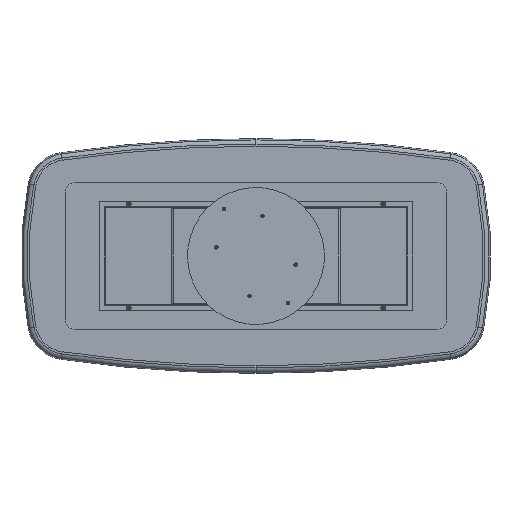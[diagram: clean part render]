
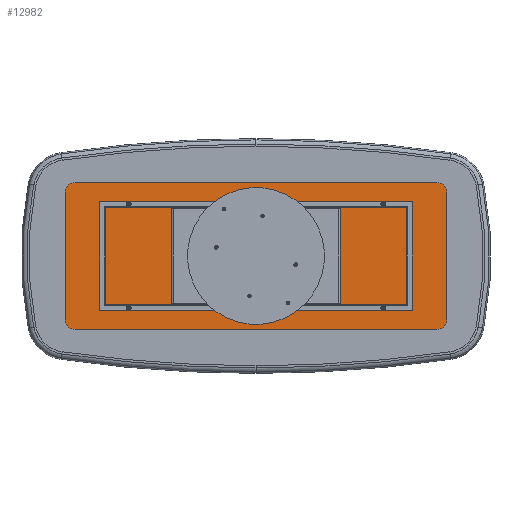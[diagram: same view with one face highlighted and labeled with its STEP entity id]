
A CAD part, front view. The second image highlights one B-rep face of the part: STEP entity #12982.
In plain terms, the highlighted planar face has unit normal (0, -1, 0).
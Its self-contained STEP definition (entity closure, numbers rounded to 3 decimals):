
#515 = CARTESIAN_POINT ( 'NONE',  ( -650., -35.5, -265. ) ) ;
#525 = CIRCLE ( 'NONE', #6205, 5. ) ;
#538 = DIRECTION ( 'NONE',  ( 0., -1., 0. ) ) ;
#576 = CIRCLE ( 'NONE', #4147, 5. ) ;
#1072 = CARTESIAN_POINT ( 'NONE',  ( 650., -35.5, 265. ) ) ;
#1090 = VERTEX_POINT ( 'NONE', #16221 ) ;
#1226 = CARTESIAN_POINT ( 'NONE',  ( 650., -35.5, -265. ) ) ;
#1245 = ORIENTED_EDGE ( 'NONE', *, *, #16371, .T. ) ;
#1343 = CARTESIAN_POINT ( 'NONE',  ( 650., -35.5, 265. ) ) ;
#1424 = EDGE_LOOP ( 'NONE', ( #13467, #12611 ) ) ;
#1569 = CIRCLE ( 'NONE', #1944, 5. ) ;
#1615 = CARTESIAN_POINT ( 'NONE',  ( 925., -35.5, 325. ) ) ;
#1630 = ORIENTED_EDGE ( 'NONE', *, *, #6626, .F. ) ;
#1672 = DIRECTION ( 'NONE',  ( 0., -1., 0. ) ) ;
#1944 = AXIS2_PLACEMENT_3D ( 'NONE', #7737, #9410, #14486 ) ;
#2183 = DIRECTION ( 'NONE',  ( 0., 0., -1. ) ) ;
#2377 = AXIS2_PLACEMENT_3D ( 'NONE', #5764, #8985, #9512 ) ;
#2416 = FACE_BOUND ( 'NONE', #15329, .T. ) ;
#2524 = CARTESIAN_POINT ( 'NONE',  ( 650., -35.5, -270. ) ) ;
#2574 = EDGE_LOOP ( 'NONE', ( #11296, #1630 ) ) ;
#2970 = EDGE_CURVE ( 'NONE', #12170, #8495, #7530, .T. ) ;
#2974 = CARTESIAN_POINT ( 'NONE',  ( 650., -35.5, -260. ) ) ;
#2987 = CIRCLE ( 'NONE', #11161, 5. ) ;
#3018 = CARTESIAN_POINT ( 'NONE',  ( 975., -35.5, 325. ) ) ;
#3100 = VECTOR ( 'NONE', #14246, 1000. ) ;
#3230 = DIRECTION ( 'NONE',  ( 0., 0., -1. ) ) ;
#3416 = AXIS2_PLACEMENT_3D ( 'NONE', #1343, #1672, #14877 ) ;
#3719 = EDGE_CURVE ( 'NONE', #10122, #1090, #16134, .T. ) ;
#4147 = AXIS2_PLACEMENT_3D ( 'NONE', #1226, #18464, #3230 ) ;
#4170 = CARTESIAN_POINT ( 'NONE',  ( 925., -35.5, -375. ) ) ;
#4236 = CARTESIAN_POINT ( 'NONE',  ( -650., -35.5, -270. ) ) ;
#4375 = EDGE_CURVE ( 'NONE', #17899, #9718, #525, .T. ) ;
#4557 = EDGE_LOOP ( 'NONE', ( #10538, #1245, #19976, #6231, #12730, #13941, #20369, #6158 ) ) ;
#4604 = DIRECTION ( 'NONE',  ( 0., -1., 0. ) ) ;
#4774 = VERTEX_POINT ( 'NONE', #10382 ) ;
#4923 = DIRECTION ( 'NONE',  ( 0., 0., -1. ) ) ;
#4953 = DIRECTION ( 'NONE',  ( 0., 0., -1. ) ) ;
#5025 = CARTESIAN_POINT ( 'NONE',  ( -925., -35.5, -375. ) ) ;
#5095 = EDGE_CURVE ( 'NONE', #16751, #9366, #12953, .T. ) ;
#5166 = DIRECTION ( 'NONE',  ( 0., -1., 0. ) ) ;
#5254 = CARTESIAN_POINT ( 'NONE',  ( 925., -35.5, 375. ) ) ;
#5463 = CARTESIAN_POINT ( 'NONE',  ( 925., -35.5, -375. ) ) ;
#5620 = EDGE_CURVE ( 'NONE', #9130, #21403, #576, .T. ) ;
#5640 = EDGE_CURVE ( 'NONE', #9718, #17899, #10542, .T. ) ;
#5764 = CARTESIAN_POINT ( 'NONE',  ( -650., -35.5, 265. ) ) ;
#6052 = VERTEX_POINT ( 'NONE', #6755 ) ;
#6158 = ORIENTED_EDGE ( 'NONE', *, *, #10631, .T. ) ;
#6205 = AXIS2_PLACEMENT_3D ( 'NONE', #1072, #17969, #9649 ) ;
#6211 = EDGE_CURVE ( 'NONE', #6052, #4774, #8054, .T. ) ;
#6231 = ORIENTED_EDGE ( 'NONE', *, *, #9000, .T. ) ;
#6381 = EDGE_CURVE ( 'NONE', #8473, #10122, #18717, .T. ) ;
#6626 = EDGE_CURVE ( 'NONE', #21403, #9130, #14446, .T. ) ;
#6755 = CARTESIAN_POINT ( 'NONE',  ( -650., -35.5, 260. ) ) ;
#7530 = CIRCLE ( 'NONE', #16002, 5. ) ;
#7737 = CARTESIAN_POINT ( 'NONE',  ( -650., -35.5, -265. ) ) ;
#7895 = VERTEX_POINT ( 'NONE', #10310 ) ;
#8054 = CIRCLE ( 'NONE', #2377, 5. ) ;
#8241 = CARTESIAN_POINT ( 'NONE',  ( -925., -35.5, 325. ) ) ;
#8436 = AXIS2_PLACEMENT_3D ( 'NONE', #11249, #21068, #14346 ) ;
#8473 = VERTEX_POINT ( 'NONE', #11117 ) ;
#8495 = VERTEX_POINT ( 'NONE', #4236 ) ;
#8571 = VECTOR ( 'NONE', #17606, 1000. ) ;
#8596 = EDGE_LOOP ( 'NONE', ( #16875, #18645 ) ) ;
#8684 = DIRECTION ( 'NONE',  ( 0., -1., 0. ) ) ;
#8985 = DIRECTION ( 'NONE',  ( 0., -1., 0. ) ) ;
#9000 = EDGE_CURVE ( 'NONE', #9366, #19715, #21432, .T. ) ;
#9102 = DIRECTION ( 'NONE',  ( 0., 0., -1. ) ) ;
#9130 = VERTEX_POINT ( 'NONE', #2524 ) ;
#9214 = FACE_OUTER_BOUND ( 'NONE', #4557, .T. ) ;
#9366 = VERTEX_POINT ( 'NONE', #11033 ) ;
#9410 = DIRECTION ( 'NONE',  ( 0., -1., 0. ) ) ;
#9512 = DIRECTION ( 'NONE',  ( 0., 0., -1. ) ) ;
#9649 = DIRECTION ( 'NONE',  ( 0., 0., -1. ) ) ;
#9718 = VERTEX_POINT ( 'NONE', #17668 ) ;
#10122 = VERTEX_POINT ( 'NONE', #16490 ) ;
#10246 = EDGE_CURVE ( 'NONE', #19715, #8473, #19159, .T. ) ;
#10310 = CARTESIAN_POINT ( 'NONE',  ( -975., -35.5, -325. ) ) ;
#10382 = CARTESIAN_POINT ( 'NONE',  ( -650., -35.5, 270. ) ) ;
#10401 = DIRECTION ( 'NONE',  ( 0., -1., 0. ) ) ;
#10415 = DIRECTION ( 'NONE',  ( 0., -1., 0. ) ) ;
#10538 = ORIENTED_EDGE ( 'NONE', *, *, #19027, .T. ) ;
#10542 = CIRCLE ( 'NONE', #3416, 5. ) ;
#10631 = EDGE_CURVE ( 'NONE', #1090, #7895, #18497, .T. ) ;
#10838 = LINE ( 'NONE', #4170, #8571 ) ;
#10871 = FACE_BOUND ( 'NONE', #8596, .T. ) ;
#11033 = CARTESIAN_POINT ( 'NONE',  ( 975., -35.5, -325. ) ) ;
#11117 = CARTESIAN_POINT ( 'NONE',  ( 925., -35.5, 375. ) ) ;
#11161 = AXIS2_PLACEMENT_3D ( 'NONE', #20796, #538, #15639 ) ;
#11249 = CARTESIAN_POINT ( 'NONE',  ( 650., -35.5, -265. ) ) ;
#11296 = ORIENTED_EDGE ( 'NONE', *, *, #5620, .F. ) ;
#11698 = VECTOR ( 'NONE', #4923, 1000. ) ;
#11781 = EDGE_CURVE ( 'NONE', #8495, #12170, #1569, .T. ) ;
#12068 = CARTESIAN_POINT ( 'NONE',  ( -925., -35.5, -325. ) ) ;
#12170 = VERTEX_POINT ( 'NONE', #16438 ) ;
#12182 = FACE_BOUND ( 'NONE', #2574, .T. ) ;
#12370 = CARTESIAN_POINT ( 'NONE',  ( -925., -35.5, -325. ) ) ;
#12611 = ORIENTED_EDGE ( 'NONE', *, *, #15311, .F. ) ;
#12730 = ORIENTED_EDGE ( 'NONE', *, *, #10246, .T. ) ;
#12734 = AXIS2_PLACEMENT_3D ( 'NONE', #1615, #5166, #4953 ) ;
#12815 = CARTESIAN_POINT ( 'NONE',  ( 650., -35.5, 260. ) ) ;
#12953 = CIRCLE ( 'NONE', #14027, 50. ) ;
#12982 = ADVANCED_FACE ( 'NONE', ( #12182, #10871, #13940, #2416, #9214 ), #17151, .T. ) ;
#13467 = ORIENTED_EDGE ( 'NONE', *, *, #6211, .F. ) ;
#13940 = FACE_BOUND ( 'NONE', #1424, .T. ) ;
#13941 = ORIENTED_EDGE ( 'NONE', *, *, #6381, .T. ) ;
#14027 = AXIS2_PLACEMENT_3D ( 'NONE', #16253, #4604, #18150 ) ;
#14246 = DIRECTION ( 'NONE',  ( -1., 0., 0. ) ) ;
#14346 = DIRECTION ( 'NONE',  ( 0., 0., -1. ) ) ;
#14446 = CIRCLE ( 'NONE', #8436, 5. ) ;
#14486 = DIRECTION ( 'NONE',  ( 0., 0., -1. ) ) ;
#14877 = DIRECTION ( 'NONE',  ( 0., 0., -1. ) ) ;
#15311 = EDGE_CURVE ( 'NONE', #4774, #6052, #2987, .T. ) ;
#15329 = EDGE_LOOP ( 'NONE', ( #18687, #16828 ) ) ;
#15402 = CIRCLE ( 'NONE', #17900, 50. ) ;
#15639 = DIRECTION ( 'NONE',  ( 0., 0., -1. ) ) ;
#15648 = AXIS2_PLACEMENT_3D ( 'NONE', #12370, #10401, #19179 ) ;
#16002 = AXIS2_PLACEMENT_3D ( 'NONE', #515, #19104, #9102 ) ;
#16134 = CIRCLE ( 'NONE', #17894, 50. ) ;
#16221 = CARTESIAN_POINT ( 'NONE',  ( -975., -35.5, 325. ) ) ;
#16253 = CARTESIAN_POINT ( 'NONE',  ( 925., -35.5, -325. ) ) ;
#16275 = DIRECTION ( 'NONE',  ( 0., 0., 1. ) ) ;
#16371 = EDGE_CURVE ( 'NONE', #21186, #16751, #10838, .T. ) ;
#16438 = CARTESIAN_POINT ( 'NONE',  ( -650., -35.5, -260. ) ) ;
#16490 = CARTESIAN_POINT ( 'NONE',  ( -925., -35.5, 375. ) ) ;
#16751 = VERTEX_POINT ( 'NONE', #5463 ) ;
#16828 = ORIENTED_EDGE ( 'NONE', *, *, #2970, .F. ) ;
#16875 = ORIENTED_EDGE ( 'NONE', *, *, #4375, .F. ) ;
#16888 = DIRECTION ( 'NONE',  ( 0., 0., -1. ) ) ;
#17151 = PLANE ( 'NONE',  #15648 ) ;
#17606 = DIRECTION ( 'NONE',  ( 1., 0., 0. ) ) ;
#17668 = CARTESIAN_POINT ( 'NONE',  ( 650., -35.5, 270. ) ) ;
#17894 = AXIS2_PLACEMENT_3D ( 'NONE', #8241, #8684, #16888 ) ;
#17899 = VERTEX_POINT ( 'NONE', #12815 ) ;
#17900 = AXIS2_PLACEMENT_3D ( 'NONE', #12068, #10415, #2183 ) ;
#17969 = DIRECTION ( 'NONE',  ( 0., -1., 0. ) ) ;
#18067 = CARTESIAN_POINT ( 'NONE',  ( 975., -35.5, -325. ) ) ;
#18150 = DIRECTION ( 'NONE',  ( 0., 0., -1. ) ) ;
#18464 = DIRECTION ( 'NONE',  ( 0., -1., 0. ) ) ;
#18497 = LINE ( 'NONE', #18718, #11698 ) ;
#18645 = ORIENTED_EDGE ( 'NONE', *, *, #5640, .F. ) ;
#18687 = ORIENTED_EDGE ( 'NONE', *, *, #11781, .F. ) ;
#18717 = LINE ( 'NONE', #5254, #3100 ) ;
#18718 = CARTESIAN_POINT ( 'NONE',  ( -975., -35.5, -325. ) ) ;
#19027 = EDGE_CURVE ( 'NONE', #7895, #21186, #15402, .T. ) ;
#19104 = DIRECTION ( 'NONE',  ( 0., -1., 0. ) ) ;
#19159 = CIRCLE ( 'NONE', #12734, 50. ) ;
#19179 = DIRECTION ( 'NONE',  ( 0., 0., -1. ) ) ;
#19715 = VERTEX_POINT ( 'NONE', #3018 ) ;
#19976 = ORIENTED_EDGE ( 'NONE', *, *, #5095, .T. ) ;
#20121 = VECTOR ( 'NONE', #16275, 1000. ) ;
#20369 = ORIENTED_EDGE ( 'NONE', *, *, #3719, .T. ) ;
#20796 = CARTESIAN_POINT ( 'NONE',  ( -650., -35.5, 265. ) ) ;
#21068 = DIRECTION ( 'NONE',  ( 0., -1., 0. ) ) ;
#21186 = VERTEX_POINT ( 'NONE', #5025 ) ;
#21403 = VERTEX_POINT ( 'NONE', #2974 ) ;
#21432 = LINE ( 'NONE', #18067, #20121 ) ;
